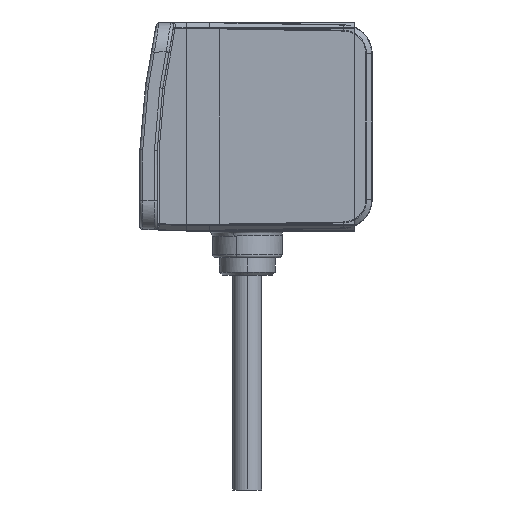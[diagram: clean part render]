
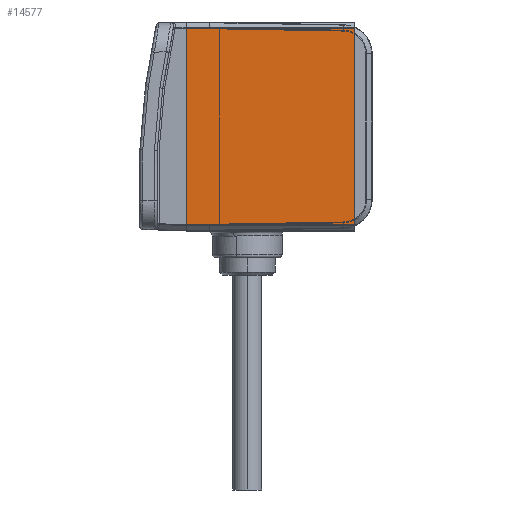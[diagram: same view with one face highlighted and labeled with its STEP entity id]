
A CAD part, left-side view. The second image highlights one B-rep face of the part: STEP entity #14577.
In plain terms, the highlighted planar face has unit normal (-1, 0, 0).
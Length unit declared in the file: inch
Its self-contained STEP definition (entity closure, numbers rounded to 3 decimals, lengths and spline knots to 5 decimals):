
#725 = LINE ( 'NONE', #10155, #13752 ) ;
#934 = VERTEX_POINT ( 'NONE', #7752 ) ;
#1016 = LINE ( 'NONE', #5897, #2689 ) ;
#1079 = DIRECTION ( 'NONE',  ( 0., 0., -1. ) ) ;
#2119 = CARTESIAN_POINT ( 'NONE',  ( -5.91249, -11.15347, 10.25136 ) ) ;
#2625 = DIRECTION ( 'NONE',  ( 0., 0., 1. ) ) ;
#2689 = VECTOR ( 'NONE', #13519, 39.37008 ) ;
#3289 = AXIS2_PLACEMENT_3D ( 'NONE', #16341, #4121, #2625 ) ;
#4121 = DIRECTION ( 'NONE',  ( -1., 0., 0. ) ) ;
#4342 = CARTESIAN_POINT ( 'NONE',  ( -5.91249, -11.15347, 11.58334 ) ) ;
#4363 = EDGE_CURVE ( 'NONE', #13031, #8133, #12996, .T. ) ;
#5897 = CARTESIAN_POINT ( 'NONE',  ( -5.91249, 0.90737, 10.91735 ) ) ;
#7752 = CARTESIAN_POINT ( 'NONE',  ( -5.91249, -0.23437, 11.58334 ) ) ;
#8133 = VERTEX_POINT ( 'NONE', #8879 ) ;
#8537 = ORIENTED_EDGE ( 'NONE', *, *, #4363, .F. ) ;
#8879 = CARTESIAN_POINT ( 'NONE',  ( -5.91249, 0.90737, 10.25136 ) ) ;
#10155 = CARTESIAN_POINT ( 'NONE',  ( -5.91249, -0.23437, 10.25136 ) ) ;
#11424 = ORIENTED_EDGE ( 'NONE', *, *, #14235, .T. ) ;
#12089 = CARTESIAN_POINT ( 'NONE',  ( -5.91249, -0.23437, 10.25136 ) ) ;
#12707 = DIRECTION ( 'NONE',  ( 0., 1., 0. ) ) ;
#12727 = EDGE_CURVE ( 'NONE', #8133, #19520, #1016, .T. ) ;
#12996 = LINE ( 'NONE', #2119, #16578 ) ;
#13031 = VERTEX_POINT ( 'NONE', #12089 ) ;
#13519 = DIRECTION ( 'NONE',  ( 0., 0., 1. ) ) ;
#13535 = VECTOR ( 'NONE', #14944, 39.37008 ) ;
#13752 = VECTOR ( 'NONE', #1079, 39.37008 ) ;
#14235 = EDGE_CURVE ( 'NONE', #934, #19520, #19506, .T. ) ;
#14577 = ADVANCED_FACE ( 'NONE', ( #18519 ), #17391, .T. ) ;
#14790 = EDGE_CURVE ( 'NONE', #934, #13031, #725, .T. ) ;
#14944 = DIRECTION ( 'NONE',  ( 0., 1., 0. ) ) ;
#16341 = CARTESIAN_POINT ( 'NONE',  ( -5.91249, -11.15347, 10.25136 ) ) ;
#16415 = ORIENTED_EDGE ( 'NONE', *, *, #14790, .F. ) ;
#16578 = VECTOR ( 'NONE', #12707, 39.37008 ) ;
#17391 = PLANE ( 'NONE',  #3289 ) ;
#17571 = EDGE_LOOP ( 'NONE', ( #16415, #11424, #19688, #8537 ) ) ;
#18519 = FACE_OUTER_BOUND ( 'NONE', #17571, .T. ) ;
#18838 = CARTESIAN_POINT ( 'NONE',  ( -5.91249, 0.90737, 11.58334 ) ) ;
#19506 = LINE ( 'NONE', #4342, #13535 ) ;
#19520 = VERTEX_POINT ( 'NONE', #18838 ) ;
#19688 = ORIENTED_EDGE ( 'NONE', *, *, #12727, .F. ) ;
